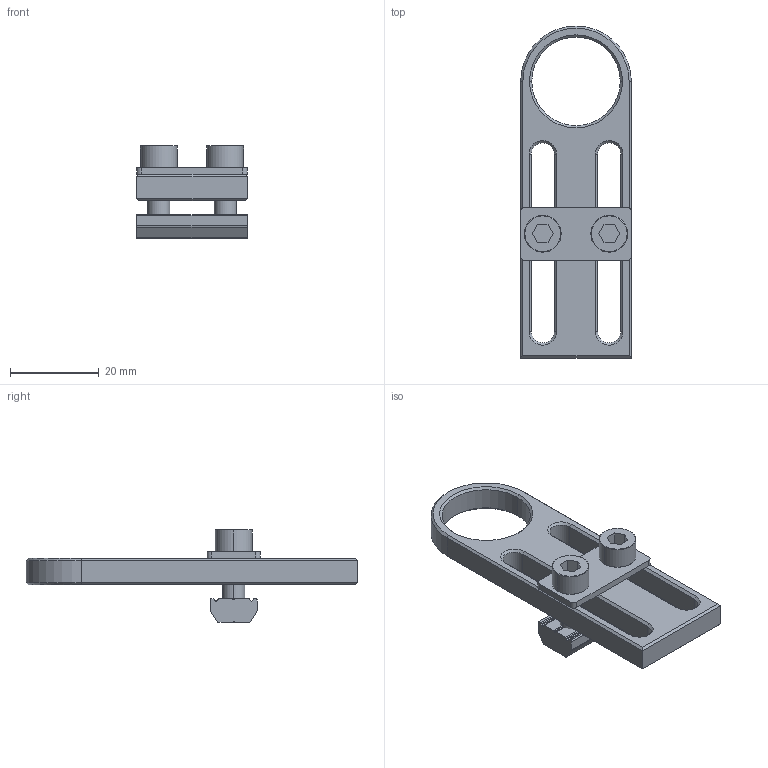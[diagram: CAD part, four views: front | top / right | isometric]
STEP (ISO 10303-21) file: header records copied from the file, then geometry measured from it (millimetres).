
FILE_DESCRIPTION (( 'STEP AP214' ), '1' );
FILE_NAME ('SMBE5-M2040T.STEP', '2023-01-09T07:42:02', ( 'Windows User' ), ( 'P R C' ), 'SwSTEP 2.0', 'SolidWorks 2018', '' );
FILE_SCHEMA (( 'AUTOMOTIVE_DESIGN' ));
Length unit declared in the file: millimetre
Products named in the file (5): SMBE5-M2040T; PTC-M5L16; PTD-M5P15; SMBE5-M2040; PTN-M5P15
Assembly tree (5 placements, depth 2):
  SMBE5-M2040T
    SMBE5-M2040
    PTC-M5L16  x2
    PTD-M5P15
    PTN-M5P15
Bounding box: 25 x 75 x 21 mm (x, y, z)
Volume: 8674.9 mm3; surface area: 7183.3 mm2
Topology: 5 solids, 5 shells, 159 faces, 407 edges, 258 vertices
Faces by surface type: plane 77, cylinder 56, cone 26
Entity records: 4557 total; most frequent: CARTESIAN_POINT 888, ORIENTED_EDGE 730, DIRECTION 711, EDGE_CURVE 365, AXIS2_PLACEMENT_3D 247, VERTEX_POINT 232, LINE 217, VECTOR 217
